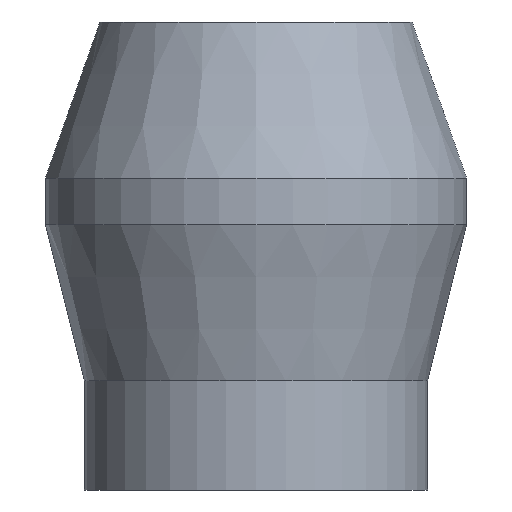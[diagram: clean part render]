
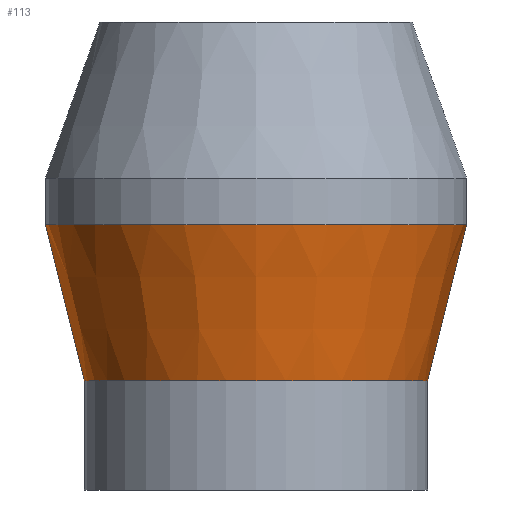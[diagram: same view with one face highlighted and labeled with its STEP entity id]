
A CAD part, front view. The second image highlights one B-rep face of the part: STEP entity #113.
In plain terms, the highlighted conical face has half-angle 14.036 degrees and reference radius 13.5 mm.
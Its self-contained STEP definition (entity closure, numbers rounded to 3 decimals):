
#98=CONICAL_SURFACE('',#286,13.5,14.036);
#113=ADVANCED_FACE('',(#130),#98,.T.);
#130=FACE_OUTER_BOUND('',#142,.T.);
#142=EDGE_LOOP('',(#187,#188,#189,#190));
#156=CIRCLE('',#281,11.);
#158=CIRCLE('',#285,13.5);
#187=ORIENTED_EDGE('',*,*,#237,.F.);
#188=ORIENTED_EDGE('',*,*,#236,.T.);
#189=ORIENTED_EDGE('',*,*,#239,.T.);
#190=ORIENTED_EDGE('',*,*,#240,.F.);
#217=VERTEX_POINT('',#379);
#218=VERTEX_POINT('',#381);
#219=VERTEX_POINT('',#387);
#220=VERTEX_POINT('',#389);
#236=EDGE_CURVE('',#217,#218,#156,.T.);
#237=EDGE_CURVE('',#217,#219,#253,.T.);
#239=EDGE_CURVE('',#218,#220,#254,.T.);
#240=EDGE_CURVE('',#219,#220,#158,.T.);
#253=LINE('',#386,#263);
#254=LINE('',#390,#264);
#263=VECTOR('',#328,1.);
#264=VECTOR('',#331,1.);
#281=AXIS2_PLACEMENT_3D('',#384,#324,#325);
#285=AXIS2_PLACEMENT_3D('',#392,#334,#335);
#286=AXIS2_PLACEMENT_3D('',#393,#336,#337);
#324=DIRECTION('',(0.,0.,1.));
#325=DIRECTION('',(0.,1.,0.));
#328=DIRECTION('',(-0.243,0.,0.97));
#331=DIRECTION('',(0.243,0.,0.97));
#334=DIRECTION('',(0.,0.,1.));
#335=DIRECTION('',(0.,1.,0.));
#336=DIRECTION('',(0.,0.,1.));
#337=DIRECTION('',(0.,-1.,0.));
#379=CARTESIAN_POINT('',(-11.,0.,7.));
#381=CARTESIAN_POINT('',(11.,0.,7.));
#384=CARTESIAN_POINT('',(0.,0.,7.));
#386=CARTESIAN_POINT('',(-11.,0.,7.));
#387=CARTESIAN_POINT('',(-13.5,0.,17.));
#389=CARTESIAN_POINT('',(13.5,0.,17.));
#390=CARTESIAN_POINT('',(11.,0.,7.));
#392=CARTESIAN_POINT('',(0.,0.,17.));
#393=CARTESIAN_POINT('',(0.,0.,17.));
